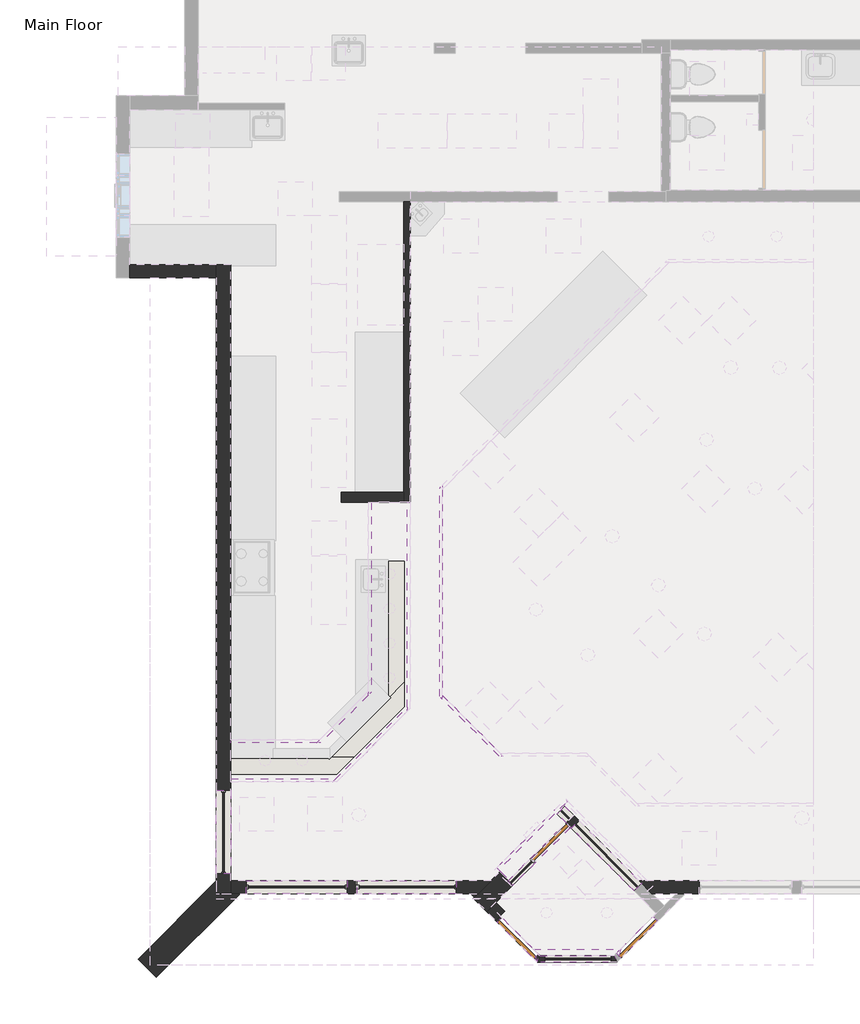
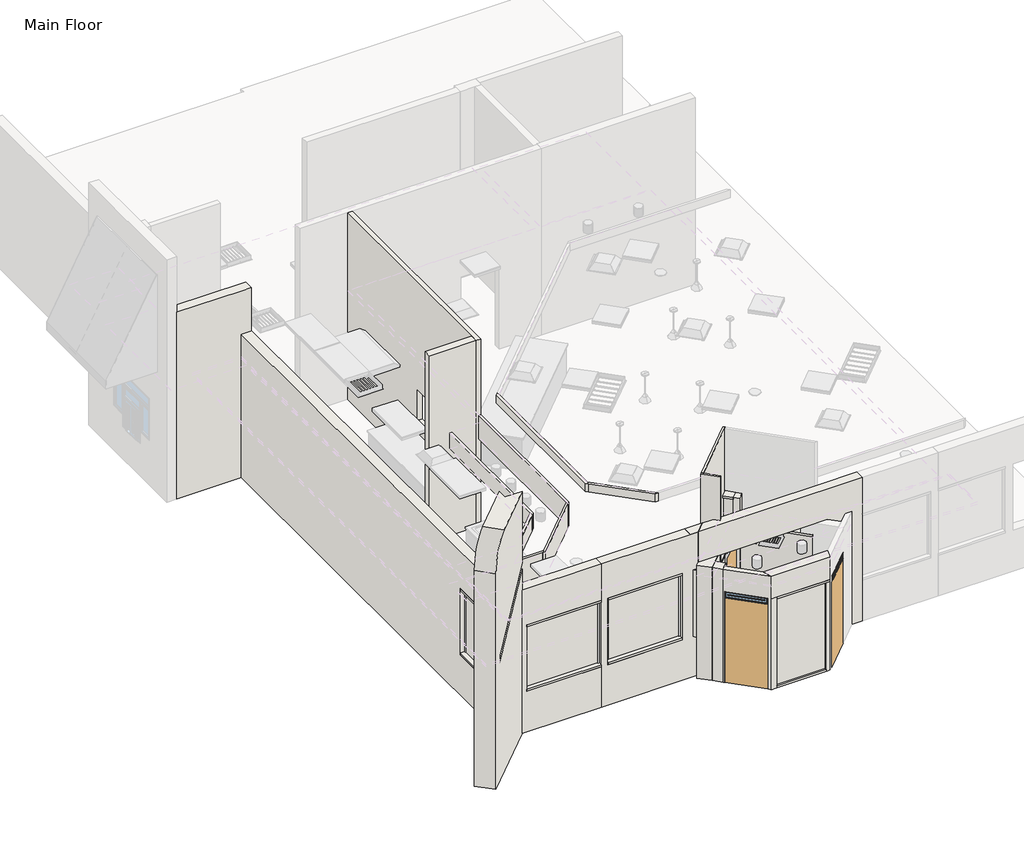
# One storey, part 1 of 6: 51 walls, 3 doors, 2 windows.
"""IFC4 building model written with IfcOpenShell, lengths in millimetres."""

from ifc_helpers import new_model, si_unit, frame, origin, origin_with_axes, place, context, project, spatial, polyline, circle_curve, outline, extrude, faceted_brep, transform, mapped, element, save
from ifc_brep_helpers import plane_surface, cylinder_surface, advanced_brep
from components import door_ef416415, door_3bf7bac3, door_0ab8a7aa, default_1_6da1564c

model = new_model("IFC4")

# Units and contexts
model_context = context("Model", 3, world=origin())
ifc_project = project(units=[si_unit("LENGTHUNIT", "METRE", prefix="MILLI")], contexts=[model_context])

# Site, building, storey
site = spatial("IfcSite", under=ifc_project)
building = spatial("IfcBuilding", under=site)
storey = spatial("IfcBuildingStorey", under=building, Name="Main Floor", Elevation=0.0)

# Doors
placement = place(None, origin())
door_shape = door_ef416415(model_context)
element("IfcDoor", 1, ObjectType="Planitar - Single Door_Flush Panel : 2'-10\" x 6'-8\"", at=placement, inside=storey, context=model_context, shape_type="MappedRepresentation", body=[
    mapped(door_shape, transform((363.5200248, -10566.1855362, 0.0), x_axis=(0.7071067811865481, 0.707106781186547, 0.0), y_axis=(-0.707106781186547, 0.7071067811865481, 0.0), z_axis=(0.0, 0.0, 1.0))),
])
door_2_shape = door_3bf7bac3(model_context)
element("IfcDoor", 2, ObjectType="Planitar - Single Door_Flush Panel : 3'-0\" x 6'-8\"", at=placement, inside=storey, context=model_context, shape_type="MappedRepresentation", body=[
    mapped(door_2_shape, transform((-211.216367, -12245.4934308, 0.0), x_axis=(-0.7071067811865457, 0.7071067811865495, 0.0), y_axis=(-0.7071067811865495, -0.7071067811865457, 0.0), z_axis=(0.0, 0.0, 1.0))),
])
door_3_shape = door_0ab8a7aa(model_context)
element("IfcDoor", 3, ObjectType="Planitar - Single Door_Flush Panel : 3'-0\" x 6'-8\"", at=placement, inside=storey, context=model_context, shape_type="MappedRepresentation", body=[
    mapped(door_3_shape, transform((1890.4826689, -12227.8520222, 0.0), x_axis=(0.7071067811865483, 0.7071067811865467, 0.0), y_axis=(-0.7071067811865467, 0.7071067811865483, 0.0), z_axis=(0.0, 0.0, 1.0))),
])

# Walls
element("IfcWall", 4, ObjectType="Planitar - Generic 10\"", at=placement, inside=storey, context=model_context, shape_type="Brep", body=[
    faceted_brep([(-5274.6166136, -11458.2312018, 0.0), (-5274.6166136, -11229.6312018, 0.0), (-5274.6166136, -11109.5000796, 0.0), (-5274.6166136, -11109.5000796, 1016.0), (-5274.6166136, -11109.5000796, 2692.4), (-5274.6166136, -11109.5000796, 3606.8), (-5274.6166136, -11229.6312018, 3606.8), (-5274.6166136, -11458.2312018, 3606.8), (-5528.6166136, -11458.2312018, 0.0), (-5528.6166136, -11458.2312018, 3606.8), (-5528.6166136, -11216.9312018, 3606.8), (-5528.6166136, -11109.5000796, 3606.8), (-5528.6166136, -11109.5000796, 2692.4), (-5528.6166136, -11109.5000796, 1016.0), (-5528.6166136, -11109.5000796, 0.0), (-5528.6166136, -11230.7108593, 0.0)], [[[0, 1, 2, 3, 4, 5, 6, 7]], [[8, 9, 10, 11, 12, 13, 14, 15]], [[2, 1, 0, 8, 15, 14]], [[7, 6, 5, 11, 10, 9]], [[0, 7, 9, 8]], [[2, 14, 13, 12, 11, 5, 4, 3]]]),
])
element("IfcWall", 5, ObjectType="Planitar - Generic 9\"", at=placement, inside=storey, context=model_context, shape_type="Brep", body=[
    faceted_brep([(-5528.6166136, -365.3000796, 0.0), (-7058.9666136, -365.3000796, 0.0), (-7058.9666136, -365.3000796, 4699.0), (-5287.3166136, -365.3000796, 4699.0), (-5287.3166136, -365.3000796, 3606.8), (-5528.6166136, -365.3000796, 3606.8), (-5528.6166136, -593.9000796, 0.0), (-5528.6166136, -593.9000796, 3606.8), (-5287.3166136, -593.9000796, 3606.8), (-5287.3166136, -593.9000796, 4699.0), (-5528.6166136, -593.9000796, 4699.0), (-7058.9666136, -593.9000796, 4699.0), (-7058.9666136, -593.9000796, 0.0)], [[[0, 1, 2, 3, 4, 5]], [[6, 7, 8, 9, 10, 11, 12]], [[1, 0, 6, 12]], [[2, 1, 12, 11]], [[3, 2, 11, 10, 9]], [[4, 8, 7, 5]], [[0, 5, 7, 6]], [[4, 3, 9, 8]]]),
])
element("IfcWall", 6, ObjectType="Planitar - Generic 9\"", at=placement, inside=storey, context=model_context, shape_type="Brep", body=[
    faceted_brep([(-5274.6166136, -11458.2312018, 0.0), (-5109.5585154, -11458.2312018, 0.0), (-3222.3135209, -11458.2312018, 0.0), (-3222.3135209, -11458.2312018, 1016.0), (-5000.3135209, -11458.2312018, 1016.0), (-5000.3135209, -11458.2312018, 2692.4), (-3222.3135209, -11458.2312018, 2692.4), (-3222.3135209, -11458.2312018, 3606.8), (-5274.6166136, -11458.2312018, 3606.8), (-5274.6166136, -11229.6312018, 0.0), (-5274.6166136, -11229.6312018, 3606.8), (-3222.3135209, -11229.6312018, 3606.8), (-3222.3135209, -11229.6312018, 2692.4), (-5000.3135209, -11229.6312018, 2692.4), (-5000.3135209, -11229.6312018, 1016.0), (-3222.3135209, -11229.6312018, 1016.0), (-3222.3135209, -11229.6312018, 0.0)], [[[0, 1, 2, 3, 4, 5, 6, 7, 8]], [[9, 10, 11, 12, 13, 14, 15, 16]], [[0, 8, 10, 9]], [[2, 1, 0, 9, 16]], [[5, 4, 14, 13]], [[8, 7, 11, 10]], [[3, 2, 16, 15]], [[4, 3, 15, 14]], [[6, 5, 13, 12]], [[7, 6, 12, 11]]]),
])
element("IfcWall", 7, ObjectType="Planitar - Generic 1' - 1\"", at=placement, inside=storey, context=model_context, shape_type="Brep", body=[
    faceted_brep([(-763.5021184, -11774.0299845, 0.0), (-601.8575083, -11612.3853743, 0.0), (-303.4589013, -11313.9867674, 0.0), (-303.4589013, -11313.9867674, 50.8), (-303.4589013, -11313.9867674, 2489.2), (-303.4589013, -11313.9867674, 2540.0), (-321.4194136, -11331.9472796, 2540.0), (-321.4194136, -11331.9472796, 2844.8), (-601.8575083, -11612.3853743, 2844.8), (-763.5021184, -11774.0299845, 2844.8), (-996.9887776, -11540.5433253, 0.0), (-996.9887776, -11540.5433253, 2844.8), (-554.9060727, -11098.4606205, 2844.8), (-554.9060727, -11098.4606205, 2540.0), (-536.9455605, -11080.5001082, 2540.0), (-536.9455605, -11080.5001082, 0.0), (-686.076654, -11229.6312018, 0.0), (-914.676654, -11458.2312018, 0.0), (-384.2812064, -11233.1644623, 0.0), (-384.2812064, -11233.1644623, 2540.0)], [[[0, 1, 2, 3, 4, 5, 6, 7, 8, 9]], [[10, 11, 12, 13, 14, 15, 16, 17]], [[2, 1, 0, 10, 17, 16, 15, 18]], [[9, 8, 7, 12, 11]], [[2, 18, 15, 14, 19, 5, 4, 3]], [[13, 6, 5, 19, 14]], [[7, 6, 13, 12]], [[0, 9, 11, 10]]]),
])
element("IfcWall", 8, ObjectType="Planitar - Generic 4 1/2\"", at=placement, inside=storey, context=model_context, shape_type="Brep", body=[
    faceted_brep([(-2112.3166136, -4556.3000796, 4699.0), (-2112.3166136, -4556.3000796, 2794.0), (-2112.3166136, -4556.3000796, 2197.1), (-2112.3166136, -4556.3000796, 0.0), (-2112.3166136, 745.9499204, 0.0), (-2112.3166136, 745.9499204, 4699.0), (-2112.3166136, -3660.9500796, 1981.2), (-2112.3166136, -2136.9500796, 1981.2), (-2112.3166136, -2136.9500796, 1219.2), (-2112.3166136, -3660.9500796, 1219.2), (-2226.6166136, -4556.3000796, 0.0), (-2226.6166136, -4556.3000796, 4699.0), (-2226.6166136, -4378.5000796, 4699.0), (-2226.6166136, 745.9499204, 4699.0), (-2226.6166136, 745.9499204, 0.0), (-2226.6166136, -4378.5000796, 0.0), (-2226.6166136, -3660.9500796, 1981.2), (-2226.6166136, -3660.9500796, 1219.2), (-2226.6166136, -2136.9500796, 1219.2), (-2226.6166136, -2136.9500796, 1981.2)], [[[0, 1, 2, 3, 4, 5], [6, 7, 8, 9]], [[10, 11, 12, 13, 14, 15], [16, 17, 18, 19]], [[4, 3, 10, 15, 14]], [[0, 5, 13, 12, 11]], [[5, 4, 14, 13]], [[17, 16, 6, 9]], [[18, 17, 9, 8]], [[19, 18, 8, 7]], [[16, 19, 7, 6]], [[0, 11, 10, 3, 2, 1]]]),
])
element("IfcWall", 9, ObjectType="Planitar - Generic 7\"", at=placement, inside=storey, context=model_context, shape_type="SweptSolid", body=[
    extrude(outline(polyline([(-2226.6166136, -4556.3000796), (-3331.5166136, -4556.3000796), (-3331.5166136, -4378.5000796), (-2226.6166136, -4378.5000796), (-2226.6166136, -4556.3000796)])), origin_with_axes(), (0.0, 0.0, 1.0), 4699.0),
])
element("IfcWall", 10, ObjectType="Planitar - Generic 1' - 6\"", at=placement, inside=storey, context=model_context, shape_type="AdvancedBrep", body=[
    advanced_brep(
    [(-5528.6166136, -11230.7108593, 0.0), (-6911.5760562, -12613.6703019, 0.0), (-6911.5760562, -12613.6703019, 5435.6), (-6444.6027379, -12146.6969836, 6096.0), (-5528.6166136, -11230.7108593, 6096.0), (-5528.6166136, -11230.7108593, 4220.127442), (-6697.0166136, -12399.1108593, 3168.0953567), (-6697.0166136, -12399.1108593, 2997.2), (-5528.6166136, -11230.7108593, 4049.2320854), (-6588.2868359, -12936.9595223, 0.0), (-5109.5585154, -11458.2312018, 0.0), (-5109.5585154, -11458.2312018, 4135.4627703), (-6373.7273932, -12722.4000796, 2997.2), (-6373.7273932, -12722.4000796, 3168.0953567), (-5109.5585154, -11458.2312018, 4306.358127), (-5109.5585154, -11458.2312018, 6096.0), (-6121.3135176, -12469.986204, 6096.0), (-6588.2868359, -12936.9595223, 5435.6), (-5528.6166136, -11458.2312018, 0.0), (-5274.6166136, -11458.2312018, 0.0), (-5528.6166136, -11458.2312018, 6096.0), (-5432.8477357, -11458.2312018, 4135.4627703), (-6697.0166136, -12722.4000796, 2997.2), (-5528.6166136, -11458.2312018, 4049.2320854), (-6697.0166136, -12722.4000796, 3168.0953567), (-5432.8477357, -11458.2312018, 4306.358127), (-5528.6166136, -11458.2312018, 4220.127442), (-5528.6166136, -11458.2312018, 3606.8)],
    [
        (0, 1),
        (1, 2),
        (2, 3, circle_curve(frame((-6444.6027379, -12146.6969836, 5435.6), z_axis=(-0.7071067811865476, 0.7071067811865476, 0.0), x_axis=(0.7071067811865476, 0.7071067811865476, 0.0)), 660.4)),
        (3, 4),
        (4, 5),
        (5, 6),
        (6, 7),
        (7, 8),
        (8, 0),
        (9, 10),
        (10, 11),
        (11, 12),
        (12, 13),
        (13, 14),
        (14, 15),
        (15, 16),
        (16, 17, circle_curve(frame((-6121.3135176, -12469.986204, 5435.6), z_axis=(0.7071067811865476, -0.7071067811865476, 0.0), x_axis=(0.7071067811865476, 0.7071067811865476, 0.0)), 660.4)),
        (17, 9),
        (0, 18),
        (18, 19),
        (19, 10),
        (9, 1),
        (17, 2),
        (3, 16),
        (15, 20),
        (20, 4),
        (21, 22),
        (22, 12),
        (11, 21),
        (21, 23),
        (23, 8),
        (7, 22),
        (24, 25),
        (25, 14),
        (13, 24),
        (24, 6),
        (5, 26),
        (26, 25),
        (24, 22),
        (20, 26),
        (23, 27),
        (27, 18),
    ],
    [
        plane_surface(frame((-5690.2612238, -11392.3554694, 0.0), z_axis=(-0.7071067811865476, 0.7071067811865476, 0.0), x_axis=(-0.7071067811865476, -0.7071067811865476, 0.0))),
        plane_surface(frame((-5366.9720034, -11715.6446898, 0.0), z_axis=(0.7071067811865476, -0.7071067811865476, 0.0), x_axis=(0.7071067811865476, 0.7071067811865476, 0.0))),
        plane_surface(frame((-5563.2612238, -11265.3554694, 0.0), z_axis=(0.0, 0.0, -1.0000000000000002), x_axis=(0.7071067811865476, -0.7071067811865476, 0.0))),
        plane_surface(frame((-6911.5760562, -12613.6703019, 0.0), z_axis=(-0.7071067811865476, -0.7071067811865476, 0.0), x_axis=(0.7071067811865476, -0.7071067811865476, 0.0))),
        plane_surface(frame((-6444.6027379, -12146.6969836, 6096.0), z_axis=(0.0, 0.0, 1.0000000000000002), x_axis=(0.7071067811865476, -0.7071067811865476, 0.0))),
        cylinder_surface(frame((-6121.3135176, -12469.986204, 5435.6), z_axis=(-0.7071067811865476, 0.7071067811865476, 0.0), x_axis=(0.7071067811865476, 0.7071067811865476, 0.0)), 660.4),
        plane_surface(frame((-6697.0166136, -12722.4000796, 2997.2), z_axis=(0.0, -0.669130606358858, 0.7431448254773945), x_axis=(1.0, 0.0, 0.0))),
        plane_surface(frame((-6697.0166136, -593.9000796, 2997.2), z_axis=(-0.669130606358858, 0.0, 0.7431448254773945), x_axis=(0.0, -1.0, 0.0))),
        plane_surface(frame((-6697.0166136, -12722.4000796, 3168.0953567), z_axis=(0.0, 0.669130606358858, -0.7431448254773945), x_axis=(1.0, 0.0, 0.0))),
        plane_surface(frame((-6697.0166136, -593.9000796, 3168.0953567), z_axis=(0.669130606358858, 0.0, -0.7431448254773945), x_axis=(0.0, -1.0, 0.0))),
        plane_surface(frame((-6697.0166136, -6658.1500796, 2997.2), z_axis=(1.0, 0.0, 0.0), x_axis=(0.0, -1.0, 0.0))),
        plane_surface(frame((1574.3982152, -12722.4000796, 2997.2), z_axis=(0.0, 1.0, 0.0), x_axis=(1.0, 0.0, 0.0))),
        plane_surface(frame((-5528.6166136, -5965.7406407, -304.8), z_axis=(1.0, 0.0, 0.0), x_axis=(0.0, 1.0, 0.0))),
        plane_surface(frame((1516.7083864, -11458.2312018, -304.8), z_axis=(0.0, 1.0, 0.0), x_axis=(-1.0, 0.0, 0.0))),
    ],
    [
        (0, [[1, 2, 3, 4, 5, 6, 7, 8, 9]]),
        (1, [[10, 11, 12, 13, 14, 15, 16, 17, 18]]),
        (2, [[-1, 19, 20, 21, -10, 22]]),
        (3, [[-2, -22, -18, 23]]),
        (4, [[-4, 24, -16, 25, 26]]),
        (5, [[-3, -23, -17, -24]]),
        (6, [[27, 28, -12, 29]]),
        (7, [[-27, 30, 31, -8, 32]]),
        (8, [[33, 34, -14, 35]]),
        (9, [[-33, 36, -6, 37, 38]]),
        (10, [[39, -32, -7, -36]]),
        (11, [[-39, -35, -13, -28]]),
        (12, [[-26, 40, -37, -5]]),
        (12, [[-19, -9, -31, 41, 42]]),
        (13, [[-21, -20, -42, -41, -30, -29, -11]]),
        (13, [[-25, -15, -34, -38, -40]]),
    ],
),
])
element("IfcWall", 11, ObjectType="Planitar - Generic 7 1/2\"", at=placement, inside=storey, context=model_context, shape_type="Brep", body=[
    faceted_brep([(866.4143675, -10171.0542669, 0.0), (772.1216783, -10076.7615776, 0.0), (772.1216783, -10076.7615776, 3175.0), (866.4143675, -10171.0542669, 3175.0), (866.4143675, -10171.0542669, 2540.0), (866.4143675, -10171.0542669, 2489.2), (866.4143675, -10171.0542669, 50.8), (637.4178365, -10211.4654194, 0.0), (731.7105257, -10305.7581087, 0.0), (731.7105257, -10305.7581087, 50.8), (731.7105257, -10305.7581087, 2489.2), (731.7105257, -10305.7581087, 2540.0), (731.7105257, -10305.7581087, 3175.0), (637.4178365, -10211.4654194, 3175.0)], [[[0, 1, 2, 3, 4, 5, 6]], [[7, 8, 9, 10, 11, 12, 13]], [[1, 0, 8, 7]], [[2, 1, 7, 13]], [[3, 2, 13, 12]], [[3, 12, 11, 10, 9, 8, 0, 6, 5, 4]]]),
])
element("IfcWall", 12, ObjectType="Planitar - Generic 7 1/2\"", at=placement, inside=storey, context=model_context, shape_type="Brep", body=[
    faceted_brep([(731.7105257, -10305.7581087, 0.0), (1837.2355397, -11411.2831227, 0.0), (1837.2355397, -11411.2831227, 50.8), (731.7105257, -10305.7581087, 50.8), (866.4143675, -10171.0542669, 0.0), (866.4143675, -10171.0542669, 50.8), (1971.9393815, -11276.5792809, 50.8), (1971.9393815, -11276.5792809, 0.0), (1924.9913024, -11229.6312018, 0.0), (1913.5677168, -11334.9509457, 50.8), (1895.6072045, -11352.9114579, 50.8), (808.0427028, -10229.4259317, 50.8), (790.0821905, -10247.3864439, 50.8)], [[[0, 1, 2, 3]], [[4, 5, 6, 7, 8]], [[1, 0, 4, 8, 7]], [[2, 1, 7, 6, 9, 10]], [[3, 2, 10, 9, 6, 5, 11, 12]], [[0, 3, 12, 11, 5, 4]]]),
])
element("IfcWall", 13, ObjectType="Planitar - Curtain wall (Curved)", at=placement, inside=storey, context=model_context, shape_type="SweptSolid", body=[
    extrude(outline(polyline([(1895.6072045, -11352.9114579), (790.0821905, -10247.3864439), (808.0427028, -10229.4259317), (1913.5677168, -11334.9509457), (1895.6072045, -11352.9114579)])), frame((0.0, 0.0, 50.8), z_axis=(0.0, 0.0, 1.0), x_axis=(1.0, 0.0, 0.0)), (0.0, 0.0, 1.0), 2438.4),
])
element("IfcWall", 14, ObjectType="Planitar - Generic 2\"", at=placement, inside=storey, context=model_context, shape_type="Brep", body=[
    faceted_brep([(-2848.9166136, -4556.3000796, 2197.1), (-2848.9166136, -7886.6107256, 2197.1), (-2848.9166136, -7958.4527745, 2197.1), (-2848.9166136, -7958.4527745, 2590.8), (-2848.9166136, -7886.6107256, 2590.8), (-2848.9166136, -4556.3000796, 2590.8), (-2798.1166136, -4556.3000796, 2197.1), (-2798.1166136, -4556.3000796, 2590.8), (-2798.1166136, -7907.6527745, 2590.8), (-2798.1166136, -7907.6527745, 2197.1)], [[[0, 1, 2, 3, 4, 5]], [[6, 7, 8, 9]], [[2, 1, 0, 6, 9]], [[5, 4, 3, 8, 7]], [[0, 5, 7, 6]], [[3, 2, 9, 8]]]),
])
element("IfcWall", 15, ObjectType="Planitar - Generic 2\"", at=placement, inside=storey, context=model_context, shape_type="Brep", body=[
    faceted_brep([(-2848.9166136, -7886.6107256, 2197.1), (-3709.6059676, -8747.3000796, 2197.1), (-3760.4059676, -8798.1000796, 2197.1), (-3760.4059676, -8798.1000796, 2590.8), (-3709.6059676, -8747.3000796, 2590.8), (-2848.9166136, -7886.6107256, 2590.8), (-2848.9166136, -7958.4527745, 2197.1), (-2848.9166136, -7958.4527745, 2590.8), (-3688.5639187, -8798.1000796, 2590.8), (-3688.5639187, -8798.1000796, 2197.1)], [[[0, 1, 2, 3, 4, 5]], [[6, 7, 8, 9]], [[2, 1, 0, 6, 9]], [[5, 4, 3, 8, 7]], [[0, 5, 7, 6]], [[3, 2, 9, 8]]]),
])
element("IfcWall", 16, ObjectType="Planitar - Generic 2\"", at=placement, inside=storey, context=model_context, shape_type="SweptSolid", body=[
    extrude(outline(polyline([(-5274.6166136, -8747.3000796), (-3709.6059676, -8747.3000796), (-3760.4059676, -8798.1000796), (-5274.6166136, -8798.1000796), (-5274.6166136, -8747.3000796)])), frame((0.0, 0.0, 2197.1), z_axis=(0.0, 0.0, 1.0), x_axis=(1.0, 0.0, 0.0)), (0.0, 0.0, 1.0), 393.7),
])
element("IfcWall", 17, ObjectType="Planitar - Generic 2\"", at=placement, inside=storey, context=model_context, shape_type="Brep", body=[
    faceted_brep([(-2163.1166136, -4556.3000796, 2197.1), (-2163.1166136, -8170.6783866, 2197.1), (-2163.1166136, -8242.5204356, 2197.1), (-2163.1166136, -8242.5204356, 2794.0), (-2163.1166136, -8170.6783866, 2794.0), (-2163.1166136, -4556.3000796, 2794.0), (-2112.3166136, -4556.3000796, 2197.1), (-2112.3166136, -4556.3000796, 2794.0), (-2112.3166136, -8191.7204356, 2794.0), (-2112.3166136, -8191.7204356, 2197.1)], [[[0, 1, 2, 3, 4, 5]], [[6, 7, 8, 9]], [[2, 1, 0, 6, 9]], [[5, 4, 3, 8, 7]], [[0, 5, 7, 6]], [[3, 2, 9, 8]]]),
])
element("IfcWall", 18, ObjectType="Planitar - Generic 2\"", at=placement, inside=storey, context=model_context, shape_type="Brep", body=[
    faceted_brep([(-2163.1166136, -8170.6783866, 2197.1), (-3425.5383066, -9433.1000796, 2197.1), (-3476.3383066, -9483.9000796, 2197.1), (-3476.3383066, -9483.9000796, 2794.0), (-3425.5383066, -9433.1000796, 2794.0), (-2163.1166136, -8170.6783866, 2794.0), (-2163.1166136, -8242.5204356, 2197.1), (-2163.1166136, -8242.5204356, 2794.0), (-3404.4962576, -9483.9000796, 2794.0), (-3404.4962576, -9483.9000796, 2197.1)], [[[0, 1, 2, 3, 4, 5]], [[6, 7, 8, 9]], [[2, 1, 0, 6, 9]], [[5, 4, 3, 8, 7]], [[0, 5, 7, 6]], [[3, 2, 9, 8]]]),
])
element("IfcWall", 19, ObjectType="Planitar - Generic 2\"", at=placement, inside=storey, context=model_context, shape_type="SweptSolid", body=[
    extrude(outline(polyline([(-5274.6166136, -9433.1000796), (-3425.5383066, -9433.1000796), (-3476.3383066, -9483.9000796), (-5274.6166136, -9483.9000796), (-5274.6166136, -9433.1000796)])), frame((0.0, 0.0, 2197.1), z_axis=(0.0, 0.0, 1.0), x_axis=(1.0, 0.0, 0.0)), (0.0, 0.0, 1.0), 596.9),
])
element("IfcWall", 20, ObjectType="Planitar - Generic 2\"", at=placement, inside=storey, context=model_context, shape_type="Brep", body=[
    faceted_brep([(-1594.0997965, -4307.2133077, 2755.9), (-1594.0997965, -7981.4974056, 2755.9), (-1594.0997965, -7981.4974056, 2959.1), (-1594.0997965, -4307.2133077, 2959.1), (-1543.2997965, -4256.4133077, 2755.9), (-1543.2997965, -4256.4133077, 2959.1), (-1543.2997965, -4328.2553567, 2959.1), (-1543.2997965, -7960.4553567, 2959.1), (-1543.2997965, -8032.2974056, 2959.1), (-1543.2997965, -8032.2974056, 2755.9), (-1543.2997965, -7960.4553567, 2755.9), (-1543.2997965, -4328.2553567, 2755.9)], [[[0, 1, 2, 3]], [[4, 5, 6, 7, 8, 9, 10, 11]], [[1, 0, 4, 11, 10, 9]], [[3, 2, 8, 7, 6, 5]], [[2, 1, 9, 8]], [[0, 3, 5, 4]]]),
])
element("IfcWall", 21, ObjectType="Planitar - Generic 2\"", at=placement, inside=storey, context=model_context, shape_type="Brep", body=[
    faceted_brep([(-1543.2997965, -8032.2974056, 2755.9), (-540.5926477, -9035.0045545, 2755.9), (-540.5926477, -9035.0045545, 2959.1), (-1543.2997965, -8032.2974056, 2959.1), (-1543.2997965, -7960.4553567, 2755.9), (-1543.2997965, -7960.4553567, 2959.1), (-519.5505987, -8984.2045545, 2959.1), (-468.7505987, -9035.0045545, 2959.1), (-468.7505987, -9035.0045545, 2755.9), (-519.5505987, -8984.2045545, 2755.9)], [[[0, 1, 2, 3]], [[4, 5, 6, 7, 8, 9]], [[1, 0, 4, 9, 8]], [[3, 2, 7, 6, 5]], [[0, 3, 5, 4]], [[2, 1, 8, 7]]]),
])
element("IfcWall", 22, ObjectType="Planitar - Generic 9\"", at=placement, inside=storey, context=model_context, shape_type="Brep", body=[
    faceted_brep([(127.7179767, -12665.2500796, 2286.0), (259.2846115, -12665.2500796, 2286.0), (1434.0346115, -12665.2500796, 2286.0), (1533.9069166, -12665.2500796, 2286.0), (1533.9069166, -12665.2500796, 2844.8), (127.7179767, -12665.2500796, 2844.8), (60.7625869, -12436.6500796, 2286.0), (60.7625869, -12436.6500796, 2844.8), (1600.8623064, -12436.6500796, 2844.8), (1600.8623064, -12436.6500796, 2286.0)], [[[0, 1, 2, 3, 4, 5]], [[6, 7, 8, 9]], [[3, 2, 1, 0, 6, 9]], [[5, 4, 8, 7]], [[0, 5, 7, 6]], [[4, 3, 9, 8]]]),
])
element("IfcWall", 23, ObjectType="Planitar - Generic 1' - 0\"", at=placement, inside=storey, context=model_context, shape_type="Brep", body=[
    faceted_brep([(-5274.6166136, -9356.9000796, 0.0), (-3407.7166136, -9356.9000796, 0.0), (-3407.7166136, -9356.9000796, 101.6), (-5274.6166136, -9356.9000796, 101.6), (-5274.6166136, -9052.1000796, 0.0), (-5274.6166136, -9052.1000796, 101.6), (-3533.9689074, -9052.1000796, 101.6), (-3102.9166136, -9052.1000796, 101.6), (-3102.9166136, -9052.1000796, 0.0), (-3533.9689074, -9052.1000796, 0.0)], [[[0, 1, 2, 3]], [[4, 5, 6, 7, 8, 9]], [[1, 0, 4, 9, 8]], [[3, 2, 7, 6, 5]], [[0, 3, 5, 4]], [[2, 1, 8, 7]]]),
])
element("IfcWall", 24, ObjectType="Planitar - Generic 1' - 0\"", at=placement, inside=storey, context=model_context, shape_type="Brep", body=[
    faceted_brep([(-3102.9166136, -9052.1000796, 0.0), (-2213.9166136, -8163.1000796, 0.0), (-2213.9166136, -8163.1000796, 101.6), (-3102.9166136, -9052.1000796, 101.6), (-3533.9689074, -9052.1000796, 0.0), (-3533.9689074, -9052.1000796, 101.6), (-2518.7166136, -8036.8477858, 101.6), (-2213.9166136, -7732.0477858, 101.6), (-2213.9166136, -7732.0477858, 0.0), (-2518.7166136, -8036.8477858, 0.0)], [[[0, 1, 2, 3]], [[4, 5, 6, 7, 8, 9]], [[1, 0, 4, 9, 8]], [[3, 2, 7, 6, 5]], [[0, 3, 5, 4]], [[2, 1, 8, 7]]]),
])
element("IfcWall", 25, ObjectType="Planitar - Generic 1' - 0\"", at=placement, inside=storey, context=model_context, shape_type="SweptSolid", body=[
    extrude(outline(polyline([(-2213.9166136, -5591.3500796), (-2213.9166136, -7732.0477858), (-2518.7166136, -8036.8477858), (-2518.7166136, -5591.3500796), (-2213.9166136, -5591.3500796)])), origin_with_axes(), (0.0, 0.0, 1.0), 101.6),
])
element("IfcWall", 26, ObjectType="Planitar - Generic 4 1/2\"", at=placement, inside=storey, context=model_context, shape_type="Brep", body=[
    faceted_brep([(718.2401415, -10292.2877245, 0.0), (718.2401415, -10292.2877245, 50.8), (709.2598854, -10301.2679806, 50.8), (709.2598854, -10301.2679806, 0.0), (637.4178365, -10211.4654194, 50.8), (637.4178365, -10211.4654194, 0.0), (628.4375803, -10220.4456755, 0.0), (628.4375803, -10220.4456755, 50.8), (668.8487329, -10242.8963158, 50.8), (686.8092451, -10260.8568281, 50.8), (659.8684768, -10251.876572, 50.8), (677.828989, -10269.8370842, 50.8)], [[[0, 1, 2, 3]], [[4, 5, 6, 7]], [[5, 0, 3, 6]], [[1, 0, 5, 4, 8, 9]], [[1, 9, 8, 4, 7, 10, 11, 2]], [[3, 2, 11, 10, 7, 6]]]),
    faceted_brep([(-303.4589013, -11313.9867674, 50.8), (-303.4589013, -11313.9867674, 0.0), (98.6024692, -10911.9253969, 0.0), (98.6024692, -10911.9253969, 50.8), (-384.2812064, -11233.1644623, 0.0), (-384.2812064, -11233.1644623, 50.8), (17.7801641, -10831.1030918, 50.8), (17.7801641, -10831.1030918, 0.0), (-352.85031, -11264.5953587, 50.8), (-334.8897978, -11282.555871, 50.8), (67.1715728, -10880.4945004, 50.8), (49.2110605, -10862.5339882, 50.8)], [[[0, 1, 2, 3]], [[4, 5, 6, 7]], [[1, 4, 7, 2]], [[5, 8, 9, 0, 3, 10, 11, 6]], [[1, 0, 9, 8, 5, 4]], [[3, 2, 7, 6, 11, 10]]]),
])
element("IfcWall", 27, ObjectType="Planitar - Curtain wall (Curved)", at=placement, inside=storey, context=model_context, shape_type="SweptSolid", body=[
    extrude(outline(polyline([(445.4252463, -2438.4), (445.4252463, 0.0), (1014.0258896, 0.0), (1014.0258896, -19.05), (982.2758896, -19.05), (982.2758896, -2438.4), (445.4252463, -2438.4)])), frame((-649.85301, -11597.5190832, 50.8), z_axis=(-0.707106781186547, 0.7071067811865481, 0.0), x_axis=(0.7071067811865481, 0.707106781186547, 0.0)), (0.0, 0.0, 1.0), 25.4),
    extrude(outline(polyline([(668.8487329, -10242.8963158), (686.8092451, -10260.8568281), (677.828989, -10269.8370842), (659.8684768, -10251.876572), (668.8487329, -10242.8963158)])), frame((0.0, 0.0, 50.8), z_axis=(0.0, 0.0, 1.0), x_axis=(1.0, 0.0, 0.0)), (0.0, 0.0, 1.0), 2152.65),
    extrude(outline(polyline([(686.8092451, -10260.8568281), (89.6222131, -10858.0438601), (71.6617008, -10840.0833479), (668.8487329, -10242.8963158), (686.8092451, -10260.8568281)])), frame((0.0, 0.0, 2266.95), z_axis=(0.0, 0.0, 1.0), x_axis=(1.0, 0.0, 0.0)), (0.0, 0.0, 1.0), 222.25),
])
element("IfcWall", 28, ObjectType="Planitar - Generic 4 1/2\"", at=placement, inside=storey, context=model_context, shape_type="Brep", body=[
    faceted_brep([(-303.4589013, -11313.9867674, 2489.2), (718.2401415, -10292.2877245, 2489.2), (718.2401415, -10292.2877245, 2540.0), (-303.4589013, -11313.9867674, 2540.0), (-384.2812064, -11233.1644623, 2489.2), (-384.2812064, -11233.1644623, 2540.0), (637.4178365, -10211.4654194, 2540.0), (637.4178365, -10211.4654194, 2489.2), (-334.8897978, -11282.555871, 2489.2), (-352.85031, -11264.5953587, 2489.2), (668.8487329, -10242.8963158, 2489.2), (686.8092451, -10260.8568281, 2489.2)], [[[0, 1, 2, 3]], [[4, 5, 6, 7]], [[1, 0, 8, 9, 4, 7, 10, 11]], [[2, 1, 11, 10, 7, 6]], [[3, 2, 6, 5]], [[0, 3, 5, 4, 9, 8]]]),
])
element("IfcWall", 29, ObjectType="Planitar - Generic 7 1/2\"", at=placement, inside=storey, context=model_context, shape_type="Brep", body=[
    faceted_brep([(731.7105257, -10305.7581087, 2489.2), (1837.2355397, -11411.2831227, 2489.2), (1837.2355397, -11411.2831227, 2540.0), (1655.5836188, -11229.6312018, 2540.0), (731.7105257, -10305.7581087, 2540.0), (866.4143675, -10171.0542669, 2489.2), (866.4143675, -10171.0542669, 2540.0), (1924.9913024, -11229.6312018, 2540.0), (1971.9393815, -11276.5792809, 2540.0), (1971.9393815, -11276.5792809, 2489.2), (790.0821905, -10247.3864439, 2489.2), (808.0427028, -10229.4259317, 2489.2), (1913.5677168, -11334.9509457, 2489.2), (1895.6072045, -11352.9114579, 2489.2)], [[[0, 1, 2, 3, 4]], [[5, 6, 7, 8, 9]], [[1, 0, 10, 11, 5, 9, 12, 13]], [[2, 1, 13, 12, 9, 8]], [[4, 3, 2, 8, 7, 6]], [[0, 4, 6, 5, 11, 10]]]),
])
element("IfcWall", 30, ObjectType="Planitar - Generic 2\"", at=placement, inside=storey, context=model_context, shape_type="Brep", body=[
    faceted_brep([(-285.4983891, -11296.0262551, 2540.0), (-545.9258166, -11035.5988276, 2540.0), (-581.8468411, -10999.6778031, 2540.0), (-581.8468411, -10999.6778031, 4699.0), (-545.9258166, -11035.5988276, 4699.0), (-285.4983891, -11296.0262551, 4699.0), (-321.4194136, -11331.9472796, 2540.0), (-321.4194136, -11331.9472796, 2844.8), (-321.4194136, -11331.9472796, 4699.0), (-617.7678656, -11035.5988276, 4699.0), (-617.7678656, -11035.5988276, 2540.0), (-554.9060727, -11098.4606205, 2540.0), (-303.4589013, -11313.9867674, 2540.0)], [[[0, 1, 2, 3, 4, 5]], [[6, 7, 8, 9, 10, 11]], [[2, 1, 0, 12, 6, 11, 10]], [[5, 4, 3, 9, 8]], [[0, 5, 8, 7, 6, 12]], [[3, 2, 10, 9]]]),
])
element("IfcWall", 31, ObjectType="Planitar - Generic 2\"", at=placement, inside=storey, context=model_context, shape_type="Brep", body=[
    faceted_brep([(-545.9258166, -11035.5988276, 2540.0), (628.4375803, -9861.2354307, 2540.0), (664.3586048, -9825.3144062, 2540.0), (664.3586048, -9825.3144062, 4699.0), (628.4375803, -9861.2354307, 4699.0), (-545.9258166, -11035.5988276, 4699.0), (-581.8468411, -10999.6778031, 2540.0), (-581.8468411, -10999.6778031, 4699.0), (628.4375803, -9789.3933817, 4699.0), (628.4375803, -9789.3933817, 2540.0)], [[[0, 1, 2, 3, 4, 5]], [[6, 7, 8, 9]], [[2, 1, 0, 6, 9]], [[5, 4, 3, 8, 7]], [[0, 5, 7, 6]], [[3, 2, 9, 8]]]),
])
element("IfcWall", 32, ObjectType="Planitar - Generic 7 1/2\"", at=placement, inside=storey, context=model_context, shape_type="Brep", body=[
    faceted_brep([(772.1216783, -10076.7615776, 0.0), (614.9671962, -9919.6070955, 0.0), (614.9671962, -9919.6070955, 50.8), (772.1216783, -10076.7615776, 50.8), (637.4178365, -10211.4654194, 0.0), (637.4178365, -10211.4654194, 50.8), (480.2633543, -10054.3109373, 50.8), (480.2633543, -10054.3109373, 0.0), (538.6350191, -9995.9392725, 50.8), (556.5955314, -9977.9787603, 50.8), (695.7895012, -10153.0937546, 50.8), (713.7500135, -10135.1332424, 50.8)], [[[0, 1, 2, 3]], [[4, 5, 6, 7]], [[1, 0, 4, 7]], [[2, 1, 7, 6, 8, 9]], [[3, 2, 9, 8, 6, 5, 10, 11]], [[0, 3, 11, 10, 5, 4]]]),
])
element("IfcWall", 33, ObjectType="Planitar - Curtain wall (Curved)", at=placement, inside=storey, context=model_context, shape_type="SweptSolid", body=[
    extrude(outline(polyline([(556.5955314, -9977.9787603), (713.7500135, -10135.1332424), (695.7895012, -10153.0937546), (538.6350191, -9995.9392725), (556.5955314, -9977.9787603)])), frame((0.0, 0.0, 50.8), z_axis=(0.0, 0.0, 1.0), x_axis=(1.0, 0.0, 0.0)), (0.0, 0.0, 1.0), 3073.4),
])
element("IfcWall", 34, ObjectType="Planitar - Generic 7 1/2\"", at=placement, inside=storey, context=model_context, shape_type="Brep", body=[
    faceted_brep([(772.1216783, -10076.7615776, 3124.2), (614.9671962, -9919.6070955, 3124.2), (614.9671962, -9919.6070955, 3175.0), (772.1216783, -10076.7615776, 3175.0), (637.4178365, -10211.4654194, 3124.2), (637.4178365, -10211.4654194, 3175.0), (480.2633543, -10054.3109373, 3175.0), (480.2633543, -10054.3109373, 3124.2), (713.7500135, -10135.1332424, 3124.2), (695.7895012, -10153.0937546, 3124.2), (538.6350191, -9995.9392725, 3124.2), (556.5955314, -9977.9787603, 3124.2)], [[[0, 1, 2, 3]], [[4, 5, 6, 7]], [[1, 0, 8, 9, 4, 7, 10, 11]], [[2, 1, 11, 10, 7, 6]], [[3, 2, 6, 5]], [[0, 3, 5, 4, 9, 8]]]),
])
element("IfcWall", 35, ObjectType="Planitar - Generic 4 1/2\"", at=placement, inside=storey, context=model_context, shape_type="SweptSolid", body=[
    extrude(outline(polyline([(259.2846115, -12665.2500796), (127.7179767, -12665.2500796), (175.0625869, -12550.9500796), (259.2846115, -12550.9500796), (259.2846115, -12665.2500796)])), origin_with_axes(), (0.0, 0.0, 1.0), 2286.0),
])
element("IfcWall", 36, ObjectType="Planitar - Generic 4 1/2\"", at=placement, inside=storey, context=model_context, shape_type="Brep", body=[
    faceted_brep([(127.7179767, -12665.2500796, 2844.8), (-602.5554617, -11934.9766412, 2844.8), (-602.5554617, -11934.9766412, 0.0), (-574.9167399, -11962.615363, 0.0), (-574.9167399, -11962.615363, 2286.0), (71.6617008, -12609.1938037, 2286.0), (71.6617008, -12609.1938037, 0.0), (127.7179767, -12665.2500796, 0.0), (127.7179767, -12665.2500796, 2286.0), (-521.7331566, -11854.1543361, 2844.8), (60.7625869, -12436.6500796, 2844.8), (60.7625869, -12436.6500796, 2286.0), (-494.0944348, -11881.7930579, 2286.0), (-494.0944348, -11881.7930579, 0.0), (-521.7331566, -11854.1543361, 0.0), (175.0625869, -12550.9500796, 2286.0), (175.0625869, -12550.9500796, 0.0), (152.4840059, -12528.3714987, 0.0), (152.4840059, -12528.3714987, 2286.0), (102.3198961, -12578.5356084, 2286.0)], [[[0, 1, 2, 3, 4, 5, 6, 7, 8]], [[9, 10, 11, 12, 13, 14]], [[15, 16, 17, 18]], [[16, 7, 6, 17]], [[2, 14, 13, 3]], [[1, 0, 10, 9]], [[2, 1, 9, 14]], [[8, 15, 18, 19]], [[7, 16, 15, 8]], [[0, 8, 19, 11, 10]], [[3, 13, 12, 4]], [[5, 19, 18, 17, 6]], [[19, 5, 4, 12, 11]]]),
])
element("IfcWall", 37, ObjectType="Planitar - Generic 9\"", at=placement, inside=storey, context=model_context, shape_type="Brep", body=[
    faceted_brep([(-440.9108515, -11773.332031, 0.0), (-601.8575083, -11612.3853743, 0.0), (-601.8575083, -11612.3853743, 2844.8), (-440.9108515, -11773.332031, 2844.8), (-763.5021184, -11774.0299845, 0.0), (-602.5554617, -11934.9766412, 0.0), (-602.5554617, -11934.9766412, 2844.8), (-763.5021184, -11774.0299845, 2844.8), (-521.7331566, -11854.1543361, 0.0), (-521.7331566, -11854.1543361, 2844.8)], [[[0, 1, 2, 3]], [[4, 5, 6, 7]], [[1, 0, 8, 5, 4]], [[3, 2, 7, 6, 9]], [[0, 3, 9, 6, 5, 8]], [[2, 1, 4, 7]]]),
])
element("IfcWall", 38, ObjectType="Planitar - Generic 4 1/2\"", at=placement, inside=storey, context=model_context, shape_type="SweptSolid", body=[
    extrude(outline(polyline([(1533.9069166, -12665.2500796), (1434.0346115, -12665.2500796), (1434.0346115, -12550.9500796), (1486.5623064, -12550.9500796), (1533.9069166, -12665.2500796)])), origin_with_axes(), (0.0, 0.0, 1.0), 2286.0),
])
element("IfcWall", 39, ObjectType="Planitar - Generic 4 1/2\"", at=placement, inside=storey, context=model_context, shape_type="Brep", body=[
    faceted_brep([(259.2846115, -12665.2500796, 0.0), (1434.0346115, -12665.2500796, 0.0), (1434.0346115, -12665.2500796, 50.8), (259.2846115, -12665.2500796, 50.8), (259.2846115, -12550.9500796, 0.0), (259.2846115, -12550.9500796, 50.8), (1434.0346115, -12550.9500796, 50.8), (1434.0346115, -12550.9500796, 0.0), (1434.0346115, -12595.4000796, 50.8), (1434.0346115, -12620.8000796, 50.8), (259.2846115, -12595.4000796, 50.8), (259.2846115, -12620.8000796, 50.8)], [[[0, 1, 2, 3]], [[4, 5, 6, 7]], [[1, 0, 4, 7]], [[2, 1, 7, 6, 8, 9]], [[3, 2, 9, 8, 6, 5, 10, 11]], [[0, 3, 11, 10, 5, 4]]]),
])
element("IfcWall", 40, ObjectType="Planitar - Curtain wall (Curved)", at=placement, inside=storey, context=model_context, shape_type="SweptSolid", body=[
    extrude(outline(polyline([(1434.0346115, -12620.8000796), (259.2846115, -12620.8000796), (259.2846115, -12595.4000796), (1434.0346115, -12595.4000796), (1434.0346115, -12620.8000796)])), frame((0.0, 0.0, 50.8), z_axis=(0.0, 0.0, 1.0), x_axis=(1.0, 0.0, 0.0)), (0.0, 0.0, 1.0), 2184.4),
])
element("IfcWall", 41, ObjectType="Planitar - Generic 10\"", at=placement, inside=storey, context=model_context, shape_type="Brep", body=[
    faceted_brep([(-5274.6166136, -9636.3000796, 1016.0), (-5274.6166136, -11109.5000796, 1016.0), (-5274.6166136, -11109.5000796, 0.0), (-5274.6166136, -9356.9000796, 0.0), (-5274.6166136, -9052.1000796, 0.0), (-5274.6166136, -365.3000796, 0.0), (-5274.6166136, -365.3000796, 3606.8), (-5274.6166136, -11109.5000796, 3606.8), (-5274.6166136, -11109.5000796, 2692.4), (-5274.6166136, -9636.3000796, 2692.4), (-5528.6166136, -9636.3000796, 1016.0), (-5528.6166136, -9636.3000796, 2692.4), (-5528.6166136, -11109.5000796, 2692.4), (-5528.6166136, -11109.5000796, 3606.8), (-5528.6166136, -593.9000796, 3606.8), (-5528.6166136, -365.3000796, 3606.8), (-5528.6166136, -365.3000796, 0.0), (-5528.6166136, -593.9000796, 0.0), (-5528.6166136, -11109.5000796, 0.0), (-5528.6166136, -11109.5000796, 1016.0), (-5287.3166136, -365.3000796, 3606.8)], [[[0, 1, 2, 3, 4, 5, 6, 7, 8, 9]], [[10, 11, 12, 13, 14, 15, 16, 17, 18, 19]], [[6, 5, 16, 15, 20]], [[5, 4, 3, 2, 18, 17, 16]], [[7, 6, 20, 15, 14, 13]], [[0, 9, 11, 10]], [[1, 0, 10, 19]], [[2, 1, 19, 18]], [[8, 7, 13, 12]], [[9, 8, 12, 11]]]),
])
element("IfcWall", 42, ObjectType="Planitar - Generic 9\"", at=placement, inside=storey, context=model_context, shape_type="Brep", body=[
    faceted_brep([(-914.676654, -11458.2312018, 0.0), (-914.676654, -11458.2312018, 3606.8), (-3222.3135209, -11458.2312018, 3606.8), (-3222.3135209, -11458.2312018, 2692.4), (-3222.3135209, -11458.2312018, 1016.0), (-3222.3135209, -11458.2312018, 0.0), (-1296.4057801, -11458.2312018, 1016.0), (-3077.5166136, -11458.2312018, 1016.0), (-3077.5166136, -11458.2312018, 2692.4), (-1296.4057801, -11458.2312018, 2692.4), (-686.076654, -11229.6312018, 0.0), (-3222.3135209, -11229.6312018, 0.0), (-3222.3135209, -11229.6312018, 1016.0), (-3222.3135209, -11229.6312018, 2692.4), (-3222.3135209, -11229.6312018, 3606.8), (-686.076654, -11229.6312018, 3606.8), (-1296.4057801, -11229.6312018, 1016.0), (-1296.4057801, -11229.6312018, 2692.4), (-3077.5166136, -11229.6312018, 2692.4), (-3077.5166136, -11229.6312018, 1016.0)], [[[0, 1, 2, 3, 4, 5], [6, 7, 8, 9]], [[10, 11, 12, 13, 14, 15], [16, 17, 18, 19]], [[1, 0, 10, 15]], [[0, 5, 11, 10]], [[2, 1, 15, 14]], [[6, 9, 17, 16]], [[7, 6, 16, 19]], [[9, 8, 18, 17]], [[8, 7, 19, 18]], [[2, 14, 13, 12, 11, 5, 4, 3]]]),
])
element("IfcWall", 43, ObjectType="Planitar - Generic 9\"", at=placement, inside=storey, context=model_context, shape_type="Brep", body=[
    faceted_brep([(2990.9563385, -11229.6312018, 3606.8), (2990.9563385, -11229.6312018, 2692.4), (2990.9563385, -11229.6312018, 1016.0), (2990.9563385, -11229.6312018, 0.0), (1924.9913024, -11229.6312018, 0.0), (1924.9913024, -11229.6312018, 2540.0), (1924.9913024, -11229.6312018, 2844.8), (1655.5836188, -11229.6312018, 2844.8), (-1106.2144097, -11229.6312018, 2844.8), (-1106.2144097, -11229.6312018, 3606.8), (1996.8333514, -11229.6312018, 3606.8), (2068.6754004, -11229.6312018, 3606.8), (2990.9563385, -11458.2312018, 0.0), (2990.9563385, -11458.2312018, 3606.8), (-1106.2144097, -11458.2312018, 3606.8), (-1106.2144097, -11458.2312018, 2844.8), (2153.5913024, -11458.2312018, 2844.8), (2153.5913024, -11458.2312018, 0.0), (2579.2811842, -11458.2312018, 0.0), (2740.9257944, -11458.2312018, 0.0), (1971.9393815, -11276.5792809, 0.0)], [[[0, 1, 2, 3, 4, 5, 6, 7, 8, 9, 10, 11]], [[12, 13, 14, 15, 16, 17, 18, 19]], [[4, 3, 12, 19, 18, 17, 20]], [[0, 11, 10, 9, 14, 13]], [[0, 13, 12, 3, 2, 1]], [[8, 7, 6, 16, 15]], [[9, 8, 15, 14]], [[4, 20, 17, 16, 6, 5]]]),
])
element("IfcWall", 44, ObjectType="Planitar - Generic 10\"", at=placement, inside=storey, context=model_context, shape_type="SweptSolid", body=[
    extrude(outline(polyline([(-5528.6166136, -11109.5000796), (-5528.6166136, -9636.3000796), (-5274.6166136, -9636.3000796), (-5274.6166136, -11109.5000796), (-5528.6166136, -11109.5000796)])), frame((0.0, 0.0, 1016.0), z_axis=(0.0, 0.0, 1.0), x_axis=(1.0, 0.0, 0.0)), (0.0, 0.0, 1.0), 50.8),
])
element("IfcWall", 45, ObjectType="Planitar - Curtain wall (Curved)", at=placement, inside=storey, context=model_context, shape_type="SweptSolid", body=[
    extrude(outline(polyline([(-5414.3166136, -9668.0500796), (-5388.9166136, -9668.0500796), (-5388.9166136, -11077.7500796), (-5414.3166136, -11077.7500796), (-5414.3166136, -9668.0500796)])), frame((0.0, 0.0, 1066.8), z_axis=(0.0, 0.0, 1.0), x_axis=(1.0, 0.0, 0.0)), (0.0, 0.0, 1.0), 1574.8),
])
element("IfcWall", 46, ObjectType="Planitar - Generic 10\"", at=placement, inside=storey, context=model_context, shape_type="SweptSolid", body=[
    extrude(outline(polyline([(-5528.6166136, -11109.5000796), (-5528.6166136, -9636.3000796), (-5274.6166136, -9636.3000796), (-5274.6166136, -11109.5000796), (-5528.6166136, -11109.5000796)])), frame((0.0, 0.0, 2641.6), z_axis=(0.0, 0.0, 1.0), x_axis=(1.0, 0.0, 0.0)), (0.0, 0.0, 1.0), 50.8),
])
element("IfcWall", 47, ObjectType="Planitar - Generic 9\"", at=placement, inside=storey, context=model_context, shape_type="SweptSolid", body=[
    extrude(outline(polyline([(-3223.5666136, -11458.2312018), (-5001.5666136, -11458.2312018), (-5001.5666136, -11229.6312018), (-3223.5666136, -11229.6312018), (-3223.5666136, -11458.2312018)])), frame((0.0, 0.0, 1016.0), z_axis=(0.0, 0.0, 1.0), x_axis=(1.0, 0.0, 0.0)), (0.0, 0.0, 1.0), 50.8),
])
element("IfcWall", 48, ObjectType="Planitar - Curtain wall (Curved)", at=placement, inside=storey, context=model_context, shape_type="SweptSolid", body=[
    extrude(outline(polyline([(-4969.8166136, -11356.6312018), (-4969.8166136, -11331.2312018), (-3255.3166136, -11331.2312018), (-3255.3166136, -11356.6312018), (-4969.8166136, -11356.6312018)])), frame((0.0, 0.0, 1066.8), z_axis=(0.0, 0.0, 1.0), x_axis=(1.0, 0.0, 0.0)), (0.0, 0.0, 1.0), 1574.8),
])
element("IfcWall", 49, ObjectType="Planitar - Generic 9\"", at=placement, inside=storey, context=model_context, shape_type="SweptSolid", body=[
    extrude(outline(polyline([(-3223.5666136, -11458.2312018), (-5001.5666136, -11458.2312018), (-5001.5666136, -11229.6312018), (-3223.5666136, -11229.6312018), (-3223.5666136, -11458.2312018)])), frame((0.0, 0.0, 2641.6), z_axis=(0.0, 0.0, 1.0), x_axis=(1.0, 0.0, 0.0)), (0.0, 0.0, 1.0), 50.8),
])
element("IfcWall", 50, ObjectType="Planitar - Generic 9\"", at=placement, inside=storey, context=model_context, shape_type="SweptSolid", body=[
    extrude(outline(polyline([(-1297.6588727, -11458.2312018), (-3045.7666136, -11458.2312018), (-3045.7666136, -11229.6312018), (-1297.6588727, -11229.6312018), (-1297.6588727, -11458.2312018)])), frame((0.0, 0.0, 1016.0), z_axis=(0.0, 0.0, 1.0), x_axis=(1.0, 0.0, 0.0)), (0.0, 0.0, 1.0), 50.8),
])
element("IfcWall", 51, ObjectType="Planitar - Curtain wall (Curved)", at=placement, inside=storey, context=model_context, shape_type="SweptSolid", body=[
    extrude(outline(polyline([(-3014.0166136, -11356.6312018), (-3014.0166136, -11331.2312018), (-1329.4088727, -11331.2312018), (-1329.4088727, -11356.6312018), (-3014.0166136, -11356.6312018)])), frame((0.0, 0.0, 1066.8), z_axis=(0.0, 0.0, 1.0), x_axis=(1.0, 0.0, 0.0)), (0.0, 0.0, 1.0), 1574.8),
])
element("IfcWall", 52, ObjectType="Planitar - Generic 9\"", at=placement, inside=storey, context=model_context, shape_type="SweptSolid", body=[
    extrude(outline(polyline([(-1297.6588727, -11458.2312018), (-3045.7666136, -11458.2312018), (-3045.7666136, -11229.6312018), (-1297.6588727, -11229.6312018), (-1297.6588727, -11458.2312018)])), frame((0.0, 0.0, 2641.6), z_axis=(0.0, 0.0, 1.0), x_axis=(1.0, 0.0, 0.0)), (0.0, 0.0, 1.0), 50.8),
])
element("IfcWall", 53, ObjectType="Planitar - Generic 4 1/2\"", at=placement, inside=storey, context=model_context, shape_type="SweptSolid", body=[
    extrude(outline(polyline([(1533.9069166, -12665.2500796), (127.7179767, -12665.2500796), (175.0625869, -12550.9500796), (1486.5623064, -12550.9500796), (1533.9069166, -12665.2500796)])), frame((0.0, 0.0, 2235.2), z_axis=(0.0, 0.0, 1.0), x_axis=(1.0, 0.0, 0.0)), (0.0, 0.0, 1.0), 50.8),
])
element("IfcWall", 54, ObjectType="Planitar - Generic 2\"", at=placement, inside=storey, context=model_context, shape_type="SweptSolid", body=[
    extrude(outline(polyline([(-1050.8703143, -11378.8987152), (-943.1072409, -11486.6617886), (-979.0282653, -11522.5828131), (-1086.7913388, -11414.8197396), (-1050.8703143, -11378.8987152)])), frame((0.0, 0.0, 1016.0), z_axis=(0.0, 0.0, 1.0), x_axis=(1.0, 0.0, 0.0)), (0.0, 0.0, 1.0), 1676.4),
])

# Windows
default_1_shape = default_1_6da1564c(model_context)
element("IfcWindow", 55, ObjectType="Planitar-Fixed : Default 1", at=placement, inside=storey, context=model_context, shape_type="MappedRepresentation", body=[
    mapped(default_1_shape, transform((-202.0239788, -12236.3010427, 1219.2), x_axis=(-0.7071067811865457, 0.7071067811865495, 0.0), y_axis=(-0.7071067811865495, -0.7071067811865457, 0.0), z_axis=(0.0, 0.0, 1.0))),
])
element("IfcWindow", 56, ObjectType="Planitar-Fixed : Default 1", at=placement, inside=storey, context=model_context, shape_type="MappedRepresentation", body=[
    mapped(default_1_shape, transform((1881.2902808, -12218.659634, 1219.2), x_axis=(-0.7071067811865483, -0.7071067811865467, 0.0), y_axis=(0.7071067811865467, -0.7071067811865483, 0.0), z_axis=(0.0, 0.0, 1.0))),
])

save(model, "model.ifc")
